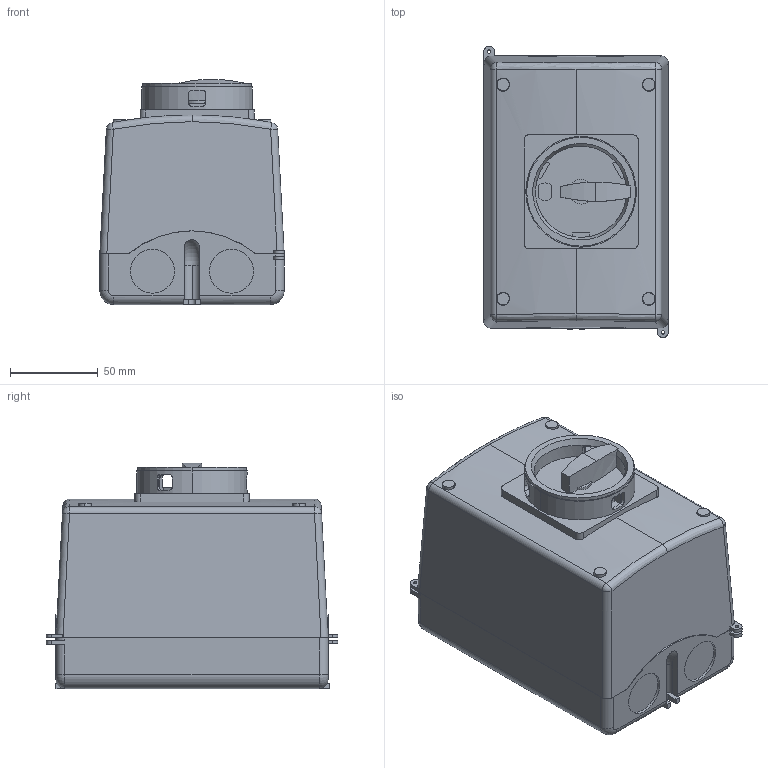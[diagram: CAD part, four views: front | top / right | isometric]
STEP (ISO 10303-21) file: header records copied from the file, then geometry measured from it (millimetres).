
FILE_DESCRIPTION (( 'STEP AP214' ), '1' );
FILE_NAME ('OMRON-J74MN_PF25.step', '2013-02-04T06:46:27', ( 'Windows User' ), ( '' ), 'SwSTEP 2.0', 'SolidWorks 2013', '' );
FILE_SCHEMA (( 'AUTOMOTIVE_DESIGN' ));
Length unit declared in the file: millimetre
Products named in the file (4): OMRON-J74MN_PF25_J74MN_PF25_LEVER; OMRON-J74MN_PF25_J74MN_PF25_COVER; OMRON-J74MN_PF25_J74MN_PF25_BASE; OMRON-J74MN_PF25
Assembly tree (3 placements, depth 2):
  OMRON-J74MN_PF25
    OMRON-J74MN_PF25_J74MN_PF25_BASE
    OMRON-J74MN_PF25_J74MN_PF25_COVER
    OMRON-J74MN_PF25_J74MN_PF25_LEVER
Bounding box: 105 x 166 x 128.3 mm (x, y, z)
Volume: 325917 mm3; surface area: 203387.1 mm2
Topology: 3 solids, 3 shells, 573 faces, 1512 edges, 979 vertices
Faces by surface type: plane 337, cylinder 204, torus 11, bspline 8, sphere 8, cone 5
Entity records: 20249 total; most frequent: CARTESIAN_POINT 4742, ORIENTED_EDGE 3024, DIRECTION 2929, EDGE_CURVE 1512, LINE 985, VECTOR 985, VERTEX_POINT 979, AXIS2_PLACEMENT_3D 972
